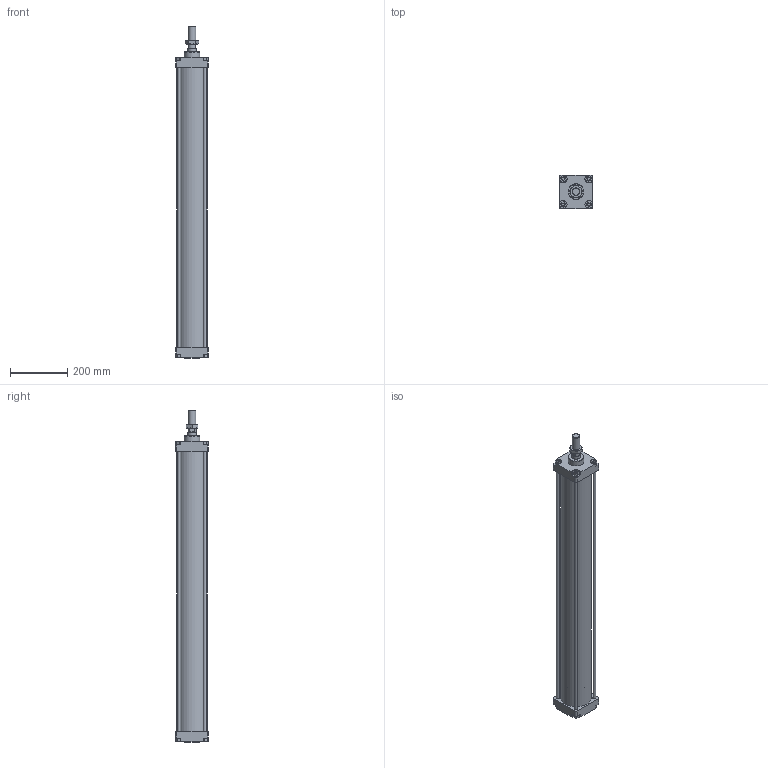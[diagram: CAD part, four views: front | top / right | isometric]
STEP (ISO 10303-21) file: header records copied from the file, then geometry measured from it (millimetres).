
FILE_DESCRIPTION(/* description */ (''),/* implementation_level */ '2;1');
FILE_NAME(/* name */ 'I:\Area Tecnica\Disegni\VARIE-3D\Componenti\CSP\Ø100\130#_100_####_###\1303_100_0900_01A.stp',/* time_stamp */ '2016-11-24T14:05:54+01:00',/* author */ ('Maniean1'),/* organization */ ('Pneumax S.p.A.'),/* preprocessor_version */ 'ST-DEVELOPER v15.2',/* originating_system */ 'Autodesk Inventor 2014',/* authorisation */ '');
FILE_SCHEMA (('AUTOMOTIVE_DESIGN { 1 0 10303 214 3 1 1 }'));
Length unit declared in the file: millimetre
Products named in the file (6): C_130#_100_0900; Testata anteriore_100; Testata posteriore_100; S_1303_100_0900_01A; 1300_100_18F; 1303_100_0900_01A
Bounding box: 115 x 115 x 1157 mm (x, y, z)
Volume: 3427454.4 mm3; surface area: 1009276.5 mm2
Topology: 9 solids, 9 shells, 162 faces, 380 edges, 249 vertices
Faces by surface type: plane 105, cylinder 42, cone 15
Full cylindrical faces by diameter (mm): 10 x12, 19 x2, 21.8 x1, 24.835 x1, 27 x1, 28 x1, 30 x3, 55 x2, 100 x2, 106 x1
Entity records: 4530 total; most frequent: CARTESIAN_POINT 785, DIRECTION 764, ORIENTED_EDGE 672, EDGE_CURVE 336, AXIS2_PLACEMENT_3D 271, VERTEX_POINT 244, EDGE_LOOP 236, LINE 222
